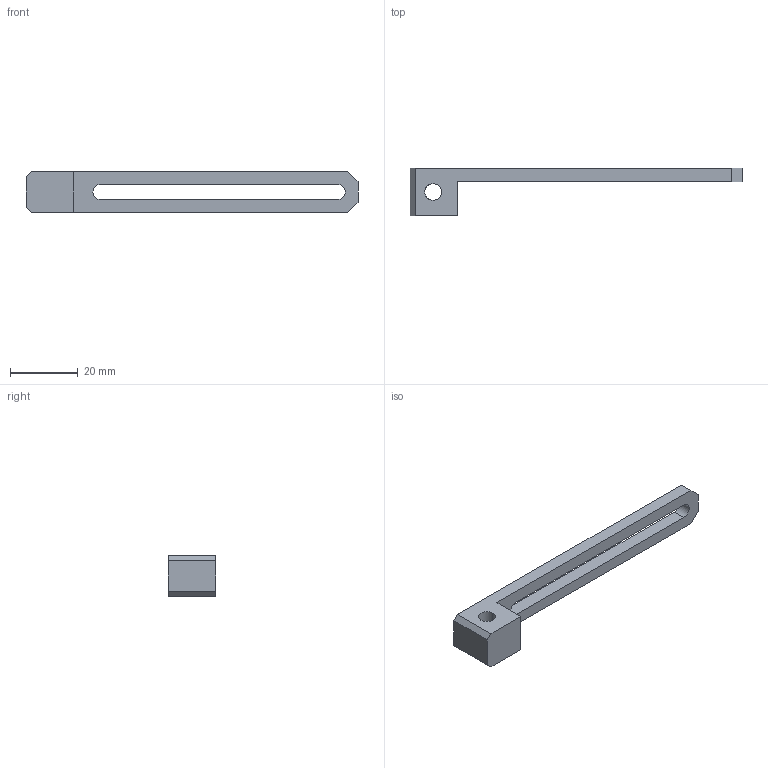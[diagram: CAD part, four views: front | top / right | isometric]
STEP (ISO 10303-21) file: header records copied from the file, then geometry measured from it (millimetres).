
FILE_DESCRIPTION (( 'STEP AP214' ), '1' );
FILE_NAME ('SCF2-70M6.STEP', '2019-11-06T07:45:06', ( '微软用户' ), ( '微软中国' ), 'SwSTEP 2.0', 'SolidWorks 2016', '' );
FILE_SCHEMA (( 'AUTOMOTIVE_DESIGN' ));
Length unit declared in the file: millimetre
Products named in the file (1): SCF2-70M6
Bounding box: 98 x 14 x 12 mm (x, y, z)
Volume: 4604.4 mm3; surface area: 3883.6 mm2
Topology: 1 solids, 1 shells, 21 faces, 60 edges, 40 vertices
Faces by surface type: plane 15, cylinder 6
Entity records: 850 total; most frequent: CARTESIAN_POINT 248, ORIENTED_EDGE 120, DIRECTION 112, EDGE_CURVE 60, VECTOR 44, LINE 44, VERTEX_POINT 40, AXIS2_PLACEMENT_3D 34
